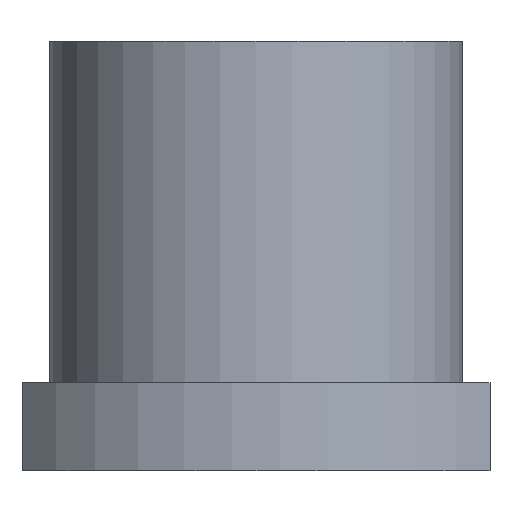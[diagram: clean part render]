
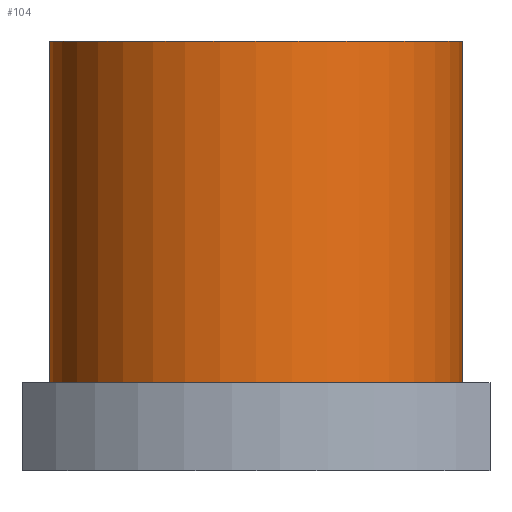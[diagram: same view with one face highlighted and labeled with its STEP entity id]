
A CAD part, front view. The second image highlights one B-rep face of the part: STEP entity #104.
In plain terms, the highlighted cylindrical face has radius 37.5 mm (diameter 75 mm), a full revolution.
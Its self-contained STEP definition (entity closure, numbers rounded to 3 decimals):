
#104=ADVANCED_FACE('',(#138,#139),#124,.T.);
#124=CYLINDRICAL_SURFACE('',#435,37.5);
#138=FACE_BOUND('',#195,.T.);
#139=FACE_BOUND('',#196,.T.);
#195=EDGE_LOOP('',(#268));
#196=EDGE_LOOP('',(#269));
#268=ORIENTED_EDGE('',*,*,#372,.F.);
#269=ORIENTED_EDGE('',*,*,#373,.T.);
#340=VERTEX_POINT('',#648);
#341=VERTEX_POINT('',#650);
#372=EDGE_CURVE('',#340,#340,#405,.T.);
#373=EDGE_CURVE('',#341,#341,#406,.T.);
#405=CIRCLE('',#433,37.5);
#406=CIRCLE('',#434,37.5);
#433=AXIS2_PLACEMENT_3D('',#647,#486,#487);
#434=AXIS2_PLACEMENT_3D('',#649,#488,#489);
#435=AXIS2_PLACEMENT_3D('',#651,#490,#491);
#486=DIRECTION('',(0.,0.,-1.));
#487=DIRECTION('',(1.,0.,0.));
#488=DIRECTION('',(0.,0.,-1.));
#489=DIRECTION('',(1.,0.,0.));
#490=DIRECTION('',(0.,0.,-1.));
#491=DIRECTION('',(-1.,0.,0.));
#647=CARTESIAN_POINT('',(0.,0.,16.));
#648=CARTESIAN_POINT('',(37.5,0.,16.));
#649=CARTESIAN_POINT('',(0.,0.,78.));
#650=CARTESIAN_POINT('',(37.5,0.,78.));
#651=CARTESIAN_POINT('',(0.,0.,78.));
